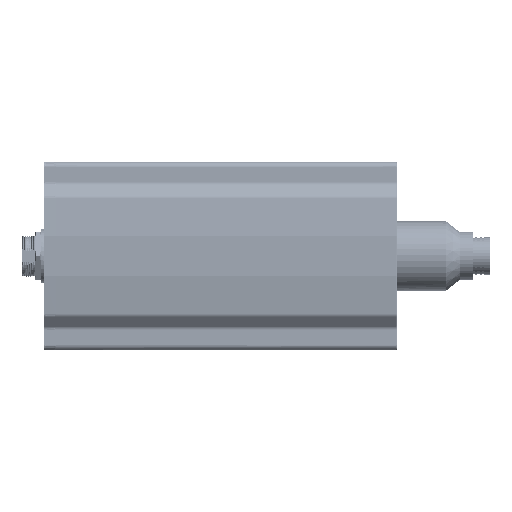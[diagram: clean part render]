
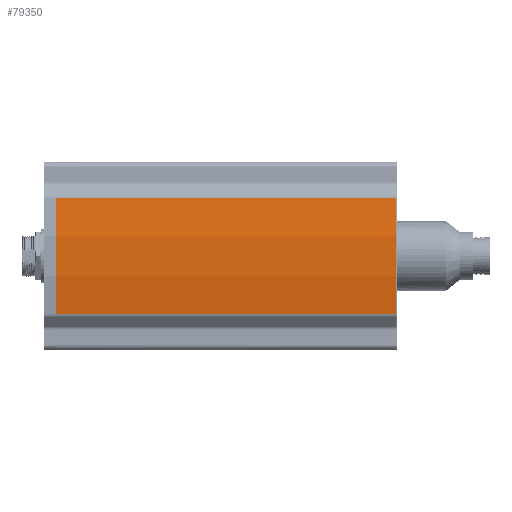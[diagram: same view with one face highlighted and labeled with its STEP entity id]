
A CAD part, front view. The second image highlights one B-rep face of the part: STEP entity #79350.
In plain terms, the highlighted cylindrical face has radius 165.451 mm (diameter 330.901 mm), a partial arc.
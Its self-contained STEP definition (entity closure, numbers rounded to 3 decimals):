
#6861=CARTESIAN_POINT('',(82.7,130.654,0.));
#6862=DIRECTION('',(1.,0.,0.));
#6863=DIRECTION('',(0.,-0.987,0.158));
#6864=AXIS2_PLACEMENT_3D('',#6861,#6862,#6863);
#11815=CARTESIAN_POINT('',(-70.,130.654,0.));
#11816=DIRECTION('',(-1.,0.,0.));
#11817=DIRECTION('',(0.,-0.987,-0.158));
#11818=AXIS2_PLACEMENT_3D('',#11815,#11816,#11817);
#11820=DIRECTION('',(-1.,0.,0.));
#11821=VECTOR('',#11820,152.7);
#11822=CARTESIAN_POINT('',(82.7,-32.707,-26.212));
#11823=LINE('',#11822,#11821);
#11837=DIRECTION('',(-1.,0.,0.));
#11838=VECTOR('',#11837,152.7);
#11839=CARTESIAN_POINT('',(82.7,-32.707,26.212));
#11840=LINE('',#11839,#11838);
#53034=CARTESIAN_POINT('',(82.7,-32.707,-26.211));
#53035=VERTEX_POINT('',#53034);
#53036=CARTESIAN_POINT('',(82.7,-32.707,26.212));
#53037=VERTEX_POINT('',#53036);
#57511=CARTESIAN_POINT('',(-70.,-32.707,-26.212));
#57512=CARTESIAN_POINT('',(-70.,-32.707,26.212));
#57513=VERTEX_POINT('',#57511);
#57514=VERTEX_POINT('',#57512);
#79337=CARTESIAN_POINT('',(0.,130.654,0.));
#79338=DIRECTION('',(-1.,0.,0.));
#79339=DIRECTION('',(0.,0.987,0.158));
#79340=AXIS2_PLACEMENT_3D('',#79337,#79338,#79339);
#79341=CYLINDRICAL_SURFACE('',#79340,165.451);
#79343=ORIENTED_EDGE('',*,*,#79342,.T.);
#79345=ORIENTED_EDGE('',*,*,#79344,.F.);
#79346=ORIENTED_EDGE('',*,*,#71585,.T.);
#79347=ORIENTED_EDGE('',*,*,#79330,.T.);
#79348=EDGE_LOOP('',(#79343,#79345,#79346,#79347));
#79349=FACE_OUTER_BOUND('',#79348,.F.);
#79350=ADVANCED_FACE('',(#79349),#79341,.T.);
#6865=CIRCLE('',#6864,165.451);
#11819=CIRCLE('',#11818,165.451);
#71585=EDGE_CURVE('',#53037,#53035,#6865,.T.);
#79330=EDGE_CURVE('',#53035,#57513,#11823,.T.);
#79342=EDGE_CURVE('',#57513,#57514,#11819,.T.);
#79344=EDGE_CURVE('',#53037,#57514,#11840,.T.);
